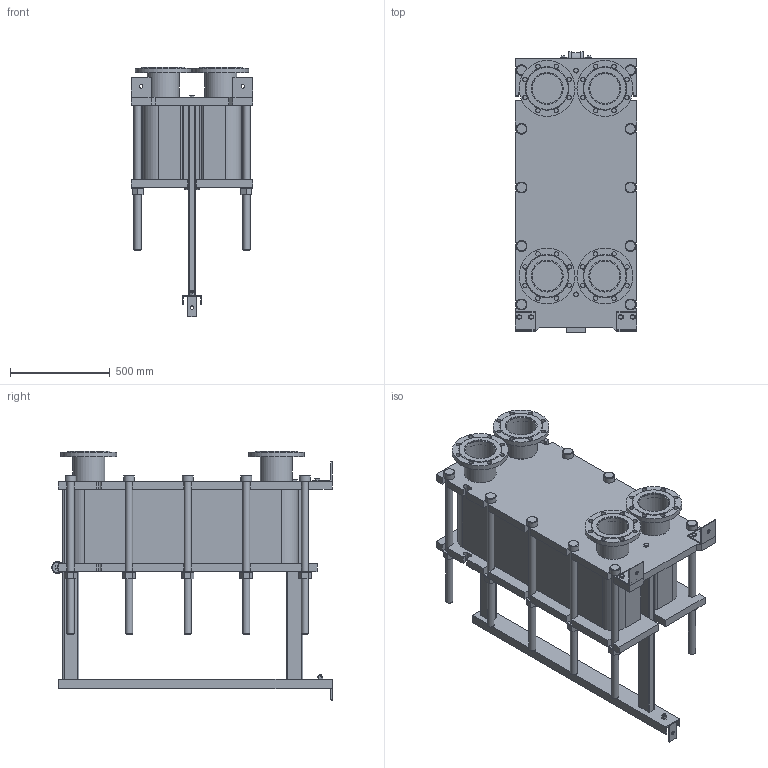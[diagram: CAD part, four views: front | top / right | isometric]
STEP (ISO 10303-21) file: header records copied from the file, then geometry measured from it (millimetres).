
FILE_DESCRIPTION(/* description */ (''),/* implementation_level */ '2;1');
FILE_NAME(/* name */ 'C:\Users\zhuro\Desktop\ENCO\TO\ЭН-041\ЭН-0,5-041-108-1.stp',/* time_stamp */ '2022-06-06T10:58:42+03:00',/* author */ ('zhuro'),/* organization */ (''),/* preprocessor_version */ 'ST-DEVELOPER v18.1',/* originating_system */ 'Autodesk Inventor 2022',/* authorisation */ '');
FILE_SCHEMA (('AUTOMOTIVE_DESIGN { 1 0 10303 214 3 1 1 }'));
Length unit declared in the file: millimetre
Products named in the file (1): ЭН-0,5-041-108-1
Bounding box: 610 x 1406.5 x 1250 mm (x, y, z)
Volume: 290599462.4 mm3; surface area: 9200904.6 mm2
Topology: 52 solids, 52 shells, 711 faces, 1696 edges, 1094 vertices
Faces by surface type: plane 487, cylinder 177, cone 41, torus 6
Full cylindrical faces by diameter (mm): 8 x4, 10 x2, 16 x8, 18 x3, 22 x32, 36 x24, 50 x1, 54 x10, 60 x12, 151 x4, 161 x8, 280 x4
Entity records: 22667 total; most frequent: CARTESIAN_POINT 5230, DIRECTION 3644, ORIENTED_EDGE 3392, EDGE_CURVE 1696, AXIS2_PLACEMENT_3D 1272, LINE 1100, VECTOR 1100, VERTEX_POINT 1094
